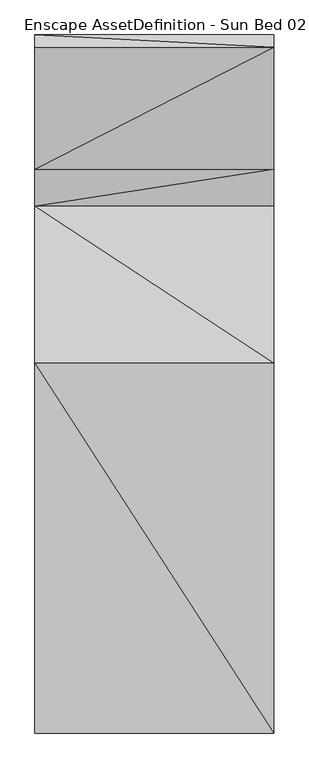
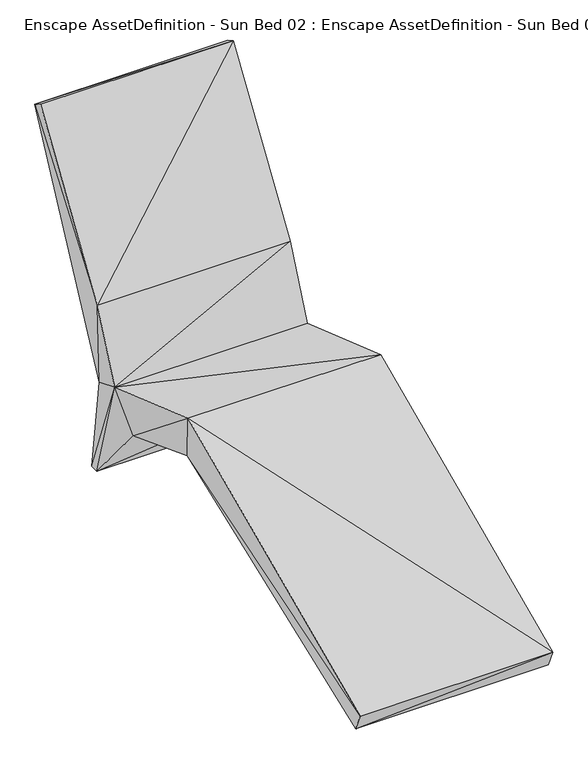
"""IFC4 building model written with IfcOpenShell, lengths in millimetres: geographic element geometry, Enscape AssetDefinition - Sun Bed 02 : Enscape AssetDefinition - Sun Bed 02."""

import ifcopenshell
import ifcopenshell.guid

model = None  # the IFC model being written
_history = None  # IfcOwnerHistory: only IFC2X3 demands one
_inside = {}  # id of a spatial element -> (the spatial element, [elements in it])
_under = {}  # id of a project, library or spatial element -> (it, [spatial elements below it])
_declared = {}  # id of a project -> (the project, [libraries it declares])
_typed = {}  # id of a type object -> (the type object, [elements of that type])
_made_of = {}  # id of a material, layer set ... -> (it, [elements and type objects made of it])


def new_model(schema):
    """Start an empty IFC model of exactly this schema.

    Asked for "IFC4X3", IfcOpenShell would pick the latest addendum, in which some entities
    have other attributes; the version numbers below select the first issue.
    IFC2X3 requires an IfcOwnerHistory on every rooted entity: one is made here for all.
    """
    global model, _history
    if schema == "IFC4X3":
        model = ifcopenshell.file(schema_version=(4, 3, 0, 0))
    else:
        model = ifcopenshell.file(schema=schema)
    _inside.clear()
    _under.clear()
    _declared.clear()
    _typed.clear()
    _made_of.clear()
    _history = None
    if model.schema == "IFC2X3":
        org = make("IfcOrganization", Name="unknown")
        user = make(
            "IfcPersonAndOrganization",
            ThePerson=make("IfcPerson", FamilyName="unknown"),
            TheOrganization=org,
        )
        app = make(
            "IfcApplication",
            ApplicationDeveloper=org,
            Version="unknown",
            ApplicationFullName="unknown",
            ApplicationIdentifier="unknown",
        )
        _history = make(
            "IfcOwnerHistory",
            OwningUser=user,
            OwningApplication=app,
            ChangeAction="ADDED",
            CreationDate=0,
        )
    return model


def make(cls, **values):
    """One entity of the class cls with the attributes given. An attribute that is None is left unset."""
    return model.create_entity(
        cls, **{name: value for name, value in values.items() if value is not None}
    )


def rooted(cls, **values):
    """An entity with a GlobalId (a new one), such as an element, a storey or a relation."""
    return make(cls, GlobalId=ifcopenshell.guid.new(), OwnerHistory=_history, **values)


def si_unit(unit_type, name, prefix=None):
    """IfcSIUnit, for example si_unit("LENGTHUNIT", "METRE", prefix="MILLI")."""
    return make("IfcSIUnit", UnitType=unit_type, Prefix=prefix, Name=name)


def assignment(units):
    """IfcUnitAssignment: the units of a project."""
    return None if units is None else make("IfcUnitAssignment", Units=units)


def point(xyz):
    """IfcCartesianPoint."""
    return None if xyz is None else make("IfcCartesianPoint", Coordinates=xyz)


def direction(xyz):
    """IfcDirection."""
    return None if xyz is None else make("IfcDirection", DirectionRatios=xyz)


def frame(location, z_axis=None, x_axis=None):
    """IfcAxis2Placement3D, a coordinate frame: its origin and axes. An axis left out is left unset."""
    return make(
        "IfcAxis2Placement3D",
        Location=point(location),
        Axis=direction(z_axis),
        RefDirection=direction(x_axis),
    )


def origin():
    """The frame at (0, 0, 0) with its axes left unset."""
    return frame((0.0, 0.0, 0.0))


def place(relative_to, where):
    """IfcLocalPlacement: puts the frame where relative to a parent placement (None: the world)."""
    return make(
        "IfcLocalPlacement", PlacementRelTo=relative_to, RelativePlacement=where
    )


def context(
    kind, dimensions, precision=None, world=None, true_north=None, identifier=None
):
    """IfcGeometricRepresentationContext, for example the 3D "Model" context."""
    return make(
        "IfcGeometricRepresentationContext",
        ContextIdentifier=identifier,
        ContextType=kind,
        CoordinateSpaceDimension=dimensions,
        Precision=precision,
        WorldCoordinateSystem=world,
        TrueNorth=true_north,
    )


def project(units=None, contexts=None):
    """IfcProject with its units and contexts."""
    return rooted(
        "IfcProject",
        Name="project",
        RepresentationContexts=contexts,
        UnitsInContext=assignment(units),
    )


def spatial(cls, under=None, at=None, **own):
    """A site, building, storey or space (cls), placed at a placement, below another one or the project."""
    s = rooted(cls, ObjectPlacement=at, **own)
    if under is not None:
        _under.setdefault(under.id(), (under, []))[1].append(s)
    return s


def faces_of(points, faces, orient=None, outer=None):
    """IfcFace entities. A face is a list of loops; a loop is a list of indices into points, from 0.

    orient and outer hold one flag for each loop. By default every Orientation is true, the
    first loop of a face is its IfcFaceOuterBound and the others are IfcFaceBound.
    """
    made = []
    for i, loops in enumerate(faces):
        bounds = []
        for j, loop in enumerate(loops):
            is_outer = j == 0 if outer is None else outer[i][j]
            bounds.append(
                make(
                    "IfcFaceOuterBound" if is_outer else "IfcFaceBound",
                    Bound=make("IfcPolyLoop", Polygon=[points[k] for k in loop]),
                    Orientation=True if orient is None else orient[i][j],
                )
            )
        made.append(make("IfcFace", Bounds=bounds))
    return made


def faceted_brep(points, faces, orient=None, outer=None, voids=None):
    """IfcFacetedBrep: a solid bounded by flat faces; with voids (closed shells), ...WithVoids."""
    shared = [point(p) for p in points]
    hull = make("IfcClosedShell", CfsFaces=faces_of(shared, faces, orient, outer))
    if voids is None:
        return make("IfcFacetedBrep", Outer=hull)
    return make(
        "IfcFacetedBrepWithVoids",
        Outer=hull,
        Voids=[
            make(cls, CfsFaces=faces_of(shared, fs, o, b)) for cls, fs, o, b in voids
        ],
    )


def shape(context_of_items, identifier, shape_type, items):
    """IfcShapeRepresentation: the items that make up one representation, for example the "Body"."""
    return make(
        "IfcShapeRepresentation",
        ContextOfItems=context_of_items,
        RepresentationIdentifier=identifier,
        RepresentationType=shape_type,
        Items=items,
    )


def source(mapping_origin, context_of_items, identifier, shape_type, items):
    """IfcRepresentationMap: a shape defined once, which mapped items show again and again."""
    return make(
        "IfcRepresentationMap",
        MappingOrigin=mapping_origin,
        MappedRepresentation=shape(context_of_items, identifier, shape_type, items),
    )


def transform(
    local_origin,
    x_axis=None,
    y_axis=None,
    z_axis=None,
    scale=None,
    scale2=None,
    scale3=None,
    uniform=True,
):
    """IfcCartesianTransformationOperator3D, or its non-uniform kind. x_axis, y_axis, z_axis: its Axis1, 2, 3."""
    if uniform:
        return make(
            "IfcCartesianTransformationOperator3D",
            Axis1=direction(x_axis),
            Axis2=direction(y_axis),
            LocalOrigin=point(local_origin),
            Scale=scale,
            Axis3=direction(z_axis),
        )
    return make(
        "IfcCartesianTransformationOperator3DnonUniform",
        Axis1=direction(x_axis),
        Axis2=direction(y_axis),
        LocalOrigin=point(local_origin),
        Scale=scale,
        Axis3=direction(z_axis),
        Scale2=scale2,
        Scale3=scale3,
    )


def mapped(mapping_source, mapping_target):
    """IfcMappedItem: shows the shape of a source again, moved by a transform."""
    return make(
        "IfcMappedItem", MappingSource=mapping_source, MappingTarget=mapping_target
    )


def made_of(thing, what):
    """Note that an element or type object is made of a material, layer set ...; save() writes the relation."""
    if what is not None:
        _made_of.setdefault(what.id(), (what, []))[1].append(thing)
    return thing


def element(
    cls,
    number,
    at=None,
    inside=None,
    cuts=None,
    type_object=None,
    material=None,
    context=None,
    identifier="Body",
    shape_type=None,
    held_by="IfcProductDefinitionShape",
    body=None,
    shapes=None,
    **own,
):
    """One element of the class cls, such as IfcWall. Its Tag is "e" and its number.

    at: its placement. inside: the storey or other place that contains it. cuts: it is an
    opening in that element (IfcRelVoidsElement). A single representation is given by context,
    identifier, shape_type and body (its items); several are given by shapes. held_by: the class
    of the entity that holds the representations. save() writes the other relations.
    """
    e = rooted(cls, Tag="e%d" % number, ObjectPlacement=at, **own)
    if body is not None:
        shapes = [shape(context, identifier, shape_type, body)]
    if shapes is not None:
        e.Representation = make(held_by, Representations=shapes)
    if inside is not None:
        _inside.setdefault(inside.id(), (inside, []))[1].append(e)
    if cuts is not None:
        rooted(
            "IfcRelVoidsElement", RelatingBuildingElement=cuts, RelatedOpeningElement=e
        )
    if type_object is not None:
        _typed.setdefault(type_object.id(), (type_object, []))[1].append(e)
    return made_of(e, material)


def aggregate(whole, parts):
    """IfcRelAggregates: a whole, such as a stair, and the parts it consists of."""
    return rooted("IfcRelAggregates", RelatingObject=whole, RelatedObjects=parts)


def save(model, path):
    """Write the relations noted so far, then the file.

    IfcRelAggregates (storeys below a building ...), IfcRelContainedInSpatialStructure (elements
    in a storey), IfcRelDefinesByType, IfcRelAssociatesMaterial and IfcRelDeclares: one each for
    every whole, place, type object, material and project.
    """
    for whole, parts in _under.values():
        aggregate(whole, parts)
    for where, things in _inside.values():
        rooted(
            "IfcRelContainedInSpatialStructure",
            RelatedElements=things,
            RelatingStructure=where,
        )
    for kind, things in _typed.values():
        rooted("IfcRelDefinesByType", RelatedObjects=things, RelatingType=kind)
    for what, things in _made_of.values():
        rooted("IfcRelAssociatesMaterial", RelatedObjects=things, RelatingMaterial=what)
    for by, libraries in _declared.values():
        rooted("IfcRelDeclares", RelatingContext=by, RelatedDefinitions=libraries)
    model.write(path)


def enscape_assetdefinition_sun_bed_02_enscape_assetdefinition_c80486b6(model_context):
    return source(origin(), model_context, "Body", "Brep", [
        faceted_brep([(330.7798207, -918.9664125, 60.9255284), (-330.8439851, 105.249308, 521.2041736), (-330.8439851, -918.9664125, 60.9255284), (330.7798207, 105.249308, 521.2041736), (-330.8439851, 108.4461585, 384.6350014), (-330.8439851, 541.0057902, 370.3619838), (-330.8439851, 429.5071363, 261.6210878), (-330.8439851, -892.4774528, -0.152374), (330.7798207, -892.4774528, -0.152374), (330.7798207, 108.4461585, 384.6350014), (330.7798207, 541.0057902, 370.3619838), (330.7798207, 429.5071363, 261.6210878), (-330.8439851, 648.0945945, -0.152374), (330.7798207, 648.0945945, -0.152374), (330.7798207, 643.6236501, 605.8078408), (330.7798207, 631.7535639, 333.979696), (330.7798207, 678.5754561, -0.152374), (-330.8439851, 678.5754561, -0.152374), (-330.8439851, 631.7535639, 333.979696), (-330.8439851, 1015.6316757, 1110.0513935), (330.7798207, 1015.6316757, 1110.0513935), (-330.8439851, 643.6236501, 605.8078408), (330.7798207, 981.4638495, 1129.866004), (-330.8439851, 981.4638495, 1129.866004)], [[[0, 1, 2]], [[1, 0, 3]], [[4, 2, 1]], [[3, 5, 1]], [[6, 1, 5]], [[1, 6, 4]], [[2, 4, 7]], [[7, 0, 2]], [[8, 3, 0]], [[0, 7, 8]], [[3, 8, 9]], [[5, 3, 10]], [[9, 10, 3]], [[7, 9, 8]], [[9, 7, 4]], [[6, 9, 4]], [[9, 6, 11]], [[12, 11, 6]], [[6, 5, 12]], [[10, 9, 11]], [[11, 12, 13]], [[10, 11, 13]], [[14, 5, 10]], [[15, 10, 16]], [[10, 15, 14]], [[10, 13, 16]], [[12, 16, 13]], [[17, 12, 5]], [[16, 12, 17]], [[16, 18, 15]], [[18, 16, 17]], [[15, 19, 20]], [[19, 15, 18]], [[14, 15, 20]], [[17, 5, 18]], [[18, 5, 21]], [[18, 21, 19]], [[22, 19, 23]], [[19, 22, 20]], [[19, 21, 23]], [[14, 20, 22]], [[21, 22, 23]], [[22, 21, 14]], [[5, 14, 21]]]),
    ])


if __name__ == "__main__":
    model = new_model("IFC4")
    model_context = context("Model", 3, world=origin())
    ifc_project = project(units=[si_unit("LENGTHUNIT", "METRE", prefix="MILLI")], contexts=[model_context])
    site = spatial("IfcSite", under=ifc_project)
    building = spatial("IfcBuilding", under=site)
    placement = place(None, origin())
    enscape_assetdefinition_sun_bed_02_enscape_assetdefinition_shape = enscape_assetdefinition_sun_bed_02_enscape_assetdefinition_c80486b6(model_context)
    element("IfcGeographicElement", 1, ObjectType="Enscape AssetDefinition - Sun Bed 02 : Enscape AssetDefinition - Sun Bed 02", at=placement, inside=building, context=model_context, shape_type="MappedRepresentation", body=[
        mapped(enscape_assetdefinition_sun_bed_02_enscape_assetdefinition_shape, transform((0.0, 0.0, 0.0), x_axis=(1.0, 0.0, 0.0), y_axis=(0.0, 1.0, 0.0), z_axis=(0.0, 0.0, 1.0))),
    ])
    save(model, "model.ifc")
